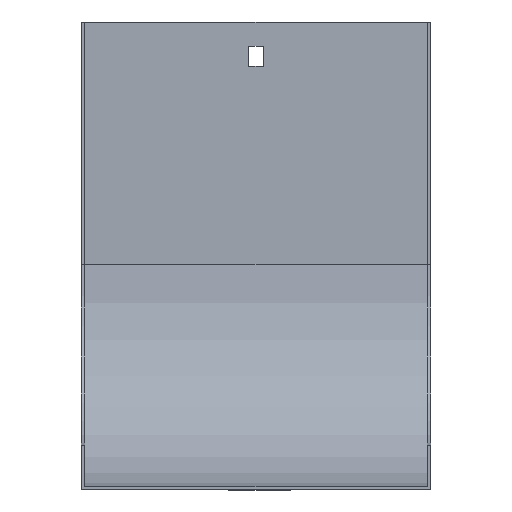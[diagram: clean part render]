
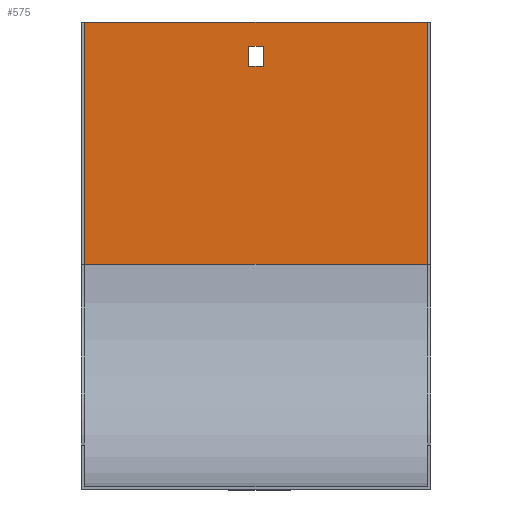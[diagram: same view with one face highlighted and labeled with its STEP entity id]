
A CAD part, front view. The second image highlights one B-rep face of the part: STEP entity #575.
In plain terms, the highlighted planar face has unit normal (0, -1, 0).
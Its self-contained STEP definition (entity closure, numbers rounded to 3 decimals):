
#2 = DIRECTION ( 'NONE',  ( 0., 0., 1. ) ) ;
#4 = CARTESIAN_POINT ( 'NONE',  ( -77., -1.5, -109. ) ) ;
#16 = CARTESIAN_POINT ( 'NONE',  ( -77., -1.5, -109. ) ) ;
#26 = VERTEX_POINT ( 'NONE', #37 ) ;
#31 = VECTOR ( 'NONE', #236, 1000. ) ;
#35 = LINE ( 'NONE', #783, #726 ) ;
#37 = CARTESIAN_POINT ( 'NONE',  ( 77., -1.5, -109. ) ) ;
#55 = FACE_OUTER_BOUND ( 'NONE', #347, .T. ) ;
#61 = CARTESIAN_POINT ( 'NONE',  ( 78.5, -1.5, -109. ) ) ;
#92 = LINE ( 'NONE', #233, #31 ) ;
#93 = VECTOR ( 'NONE', #523, 1000. ) ;
#104 = CARTESIAN_POINT ( 'NONE',  ( 78.5, -1.5, 0. ) ) ;
#165 = VERTEX_POINT ( 'NONE', #222 ) ;
#172 = ORIENTED_EDGE ( 'NONE', *, *, #755, .F. ) ;
#174 = VERTEX_POINT ( 'NONE', #227 ) ;
#202 = VERTEX_POINT ( 'NONE', #413 ) ;
#203 = LINE ( 'NONE', #4, #682 ) ;
#222 = CARTESIAN_POINT ( 'NONE',  ( 77., -1.5, 0. ) ) ;
#227 = CARTESIAN_POINT ( 'NONE',  ( -3.25, -1.5, -11. ) ) ;
#230 = VERTEX_POINT ( 'NONE', #269 ) ;
#233 = CARTESIAN_POINT ( 'NONE',  ( -3.25, -1.5, 0. ) ) ;
#236 = DIRECTION ( 'NONE',  ( 0., 0., -1. ) ) ;
#255 = LINE ( 'NONE', #779, #697 ) ;
#258 = CARTESIAN_POINT ( 'NONE',  ( 78.5, -1.5, -11. ) ) ;
#264 = LINE ( 'NONE', #104, #428 ) ;
#269 = CARTESIAN_POINT ( 'NONE',  ( 3.25, -1.5, -11. ) ) ;
#346 = CARTESIAN_POINT ( 'NONE',  ( 3.25, -1.5, 0. ) ) ;
#347 = EDGE_LOOP ( 'NONE', ( #584, #675, #747, #550 ) ) ;
#362 = EDGE_CURVE ( 'NONE', #479, #564, #203, .T. ) ;
#378 = DIRECTION ( 'NONE',  ( 0., 0., 1. ) ) ;
#413 = CARTESIAN_POINT ( 'NONE',  ( -3.25, -1.5, -20. ) ) ;
#428 = VECTOR ( 'NONE', #704, 1000. ) ;
#434 = EDGE_CURVE ( 'NONE', #174, #202, #92, .T. ) ;
#439 = CARTESIAN_POINT ( 'NONE',  ( -77., -1.5, 0. ) ) ;
#453 = LINE ( 'NONE', #258, #460 ) ;
#455 = DIRECTION ( 'NONE',  ( 1., 0., 0. ) ) ;
#460 = VECTOR ( 'NONE', #710, 1000. ) ;
#479 = VERTEX_POINT ( 'NONE', #16 ) ;
#503 = EDGE_LOOP ( 'NONE', ( #694, #172, #788, #600 ) ) ;
#506 = DIRECTION ( 'NONE',  ( 0., 0., -1. ) ) ;
#523 = DIRECTION ( 'NONE',  ( -1., 0., 0. ) ) ;
#529 = AXIS2_PLACEMENT_3D ( 'NONE', #825, #566, #506 ) ;
#550 = ORIENTED_EDGE ( 'NONE', *, *, #743, .T. ) ;
#564 = VERTEX_POINT ( 'NONE', #439 ) ;
#566 = DIRECTION ( 'NONE',  ( 0., -1., 0. ) ) ;
#575 = ADVANCED_FACE ( 'NONE', ( #636, #55 ), #590, .T. ) ;
#584 = ORIENTED_EDGE ( 'NONE', *, *, #362, .F. ) ;
#590 = PLANE ( 'NONE',  #529 ) ;
#600 = ORIENTED_EDGE ( 'NONE', *, *, #658, .F. ) ;
#636 = FACE_BOUND ( 'NONE', #503, .T. ) ;
#648 = VECTOR ( 'NONE', #2, 1000. ) ;
#658 = EDGE_CURVE ( 'NONE', #202, #707, #255, .T. ) ;
#663 = LINE ( 'NONE', #346, #648 ) ;
#670 = LINE ( 'NONE', #61, #93 ) ;
#675 = ORIENTED_EDGE ( 'NONE', *, *, #815, .F. ) ;
#682 = VECTOR ( 'NONE', #742, 1000. ) ;
#694 = ORIENTED_EDGE ( 'NONE', *, *, #434, .F. ) ;
#697 = VECTOR ( 'NONE', #455, 1000. ) ;
#704 = DIRECTION ( 'NONE',  ( -1., 0., 0. ) ) ;
#707 = VERTEX_POINT ( 'NONE', #778 ) ;
#710 = DIRECTION ( 'NONE',  ( -1., 0., 0. ) ) ;
#726 = VECTOR ( 'NONE', #378, 1000. ) ;
#729 = EDGE_CURVE ( 'NONE', #26, #165, #35, .T. ) ;
#742 = DIRECTION ( 'NONE',  ( 0., 0., 1. ) ) ;
#743 = EDGE_CURVE ( 'NONE', #165, #564, #264, .T. ) ;
#747 = ORIENTED_EDGE ( 'NONE', *, *, #729, .T. ) ;
#755 = EDGE_CURVE ( 'NONE', #230, #174, #453, .T. ) ;
#778 = CARTESIAN_POINT ( 'NONE',  ( 3.25, -1.5, -20. ) ) ;
#779 = CARTESIAN_POINT ( 'NONE',  ( 78.5, -1.5, -20. ) ) ;
#783 = CARTESIAN_POINT ( 'NONE',  ( 77., -1.5, -109. ) ) ;
#788 = ORIENTED_EDGE ( 'NONE', *, *, #857, .F. ) ;
#815 = EDGE_CURVE ( 'NONE', #26, #479, #670, .T. ) ;
#825 = CARTESIAN_POINT ( 'NONE',  ( 78.5, -1.5, 0. ) ) ;
#857 = EDGE_CURVE ( 'NONE', #707, #230, #663, .T. ) ;
